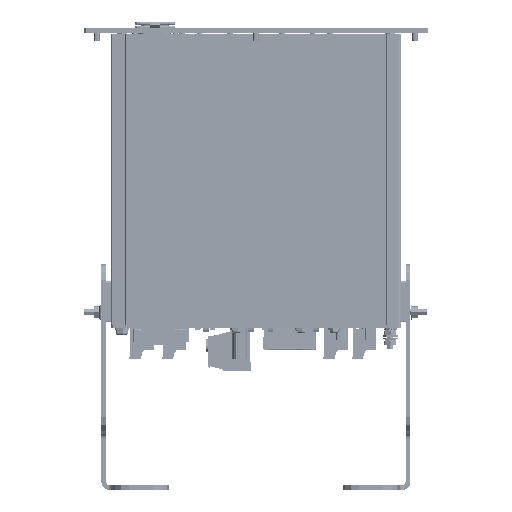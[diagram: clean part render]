
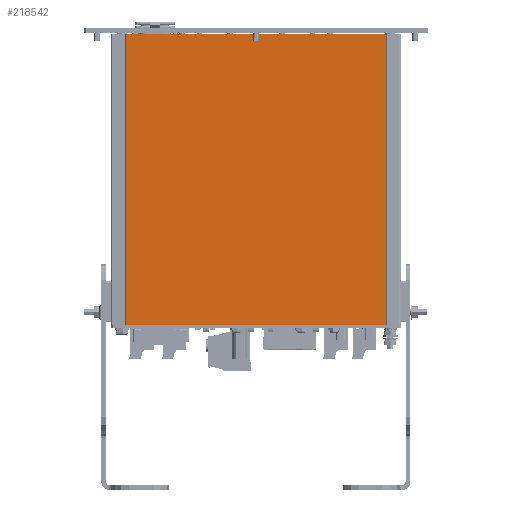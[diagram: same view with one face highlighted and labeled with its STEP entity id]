
A CAD part, front view. The second image highlights one B-rep face of the part: STEP entity #218542.
In plain terms, the highlighted planar face has unit normal (0, -1, 0).
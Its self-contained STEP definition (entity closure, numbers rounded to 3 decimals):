
#20174 = LINE ( 'NONE', #418196, #222006 ) ;
#105193 = VERTEX_POINT ( 'NONE', #242427 ) ;
#111782 = CARTESIAN_POINT ( 'NONE',  ( -176.081, -158.02, 282.25 ) ) ;
#127174 = EDGE_CURVE ( 'NONE', #693619, #688755, #20174, .T. ) ;
#129917 = DIRECTION ( 'NONE',  ( 0., 0., -1. ) ) ;
#147471 = VECTOR ( 'NONE', #157110, 1000. ) ;
#157110 = DIRECTION ( 'NONE',  ( 1., 0., 0. ) ) ;
#162247 = CARTESIAN_POINT ( 'NONE',  ( -176.081, -158.02, 102.25 ) ) ;
#183517 = VECTOR ( 'NONE', #129917, 1000. ) ;
#196539 = ORIENTED_EDGE ( 'NONE', *, *, #245354, .F. ) ;
#214673 = CARTESIAN_POINT ( 'NONE',  ( -176.081, -158.02, 282.25 ) ) ;
#218542 = ADVANCED_FACE ( 'NONE', ( #897248 ), #661315, .F. ) ;
#219451 = CARTESIAN_POINT ( 'NONE',  ( -176.081, -158.02, 102.25 ) ) ;
#222006 = VECTOR ( 'NONE', #339713, 1000. ) ;
#242427 = CARTESIAN_POINT ( 'NONE',  ( -15.269, -158.02, 102.25 ) ) ;
#245354 = EDGE_CURVE ( 'NONE', #688755, #105193, #433923, .T. ) ;
#292578 = DIRECTION ( 'NONE',  ( 0., 0., -1. ) ) ;
#337148 = DIRECTION ( 'NONE',  ( 0., 1., 0. ) ) ;
#339713 = DIRECTION ( 'NONE',  ( 1., 0., 0. ) ) ;
#355355 = EDGE_CURVE ( 'NONE', #693619, #986997, #631833, .T. ) ;
#373576 = ORIENTED_EDGE ( 'NONE', *, *, #127174, .F. ) ;
#418196 = CARTESIAN_POINT ( 'NONE',  ( -176.081, -158.02, 282.25 ) ) ;
#433923 = LINE ( 'NONE', #517719, #675917 ) ;
#517719 = CARTESIAN_POINT ( 'NONE',  ( -15.269, -158.02, 282.25 ) ) ;
#533091 = CARTESIAN_POINT ( 'NONE',  ( -15.269, -158.02, 282.25 ) ) ;
#572948 = ORIENTED_EDGE ( 'NONE', *, *, #579564, .T. ) ;
#579564 = EDGE_CURVE ( 'NONE', #986997, #105193, #628212, .T. ) ;
#628212 = LINE ( 'NONE', #162247, #147471 ) ;
#631833 = LINE ( 'NONE', #935975, #183517 ) ;
#661315 = PLANE ( 'NONE',  #779166 ) ;
#675917 = VECTOR ( 'NONE', #292578, 1000. ) ;
#688755 = VERTEX_POINT ( 'NONE', #533091 ) ;
#693619 = VERTEX_POINT ( 'NONE', #214673 ) ;
#715268 = EDGE_LOOP ( 'NONE', ( #572948, #196539, #373576, #982755 ) ) ;
#779166 = AXIS2_PLACEMENT_3D ( 'NONE', #111782, #337148, #892152 ) ;
#892152 = DIRECTION ( 'NONE',  ( 0., 0., -1. ) ) ;
#897248 = FACE_OUTER_BOUND ( 'NONE', #715268, .T. ) ;
#935975 = CARTESIAN_POINT ( 'NONE',  ( -176.081, -158.02, 282.25 ) ) ;
#982755 = ORIENTED_EDGE ( 'NONE', *, *, #355355, .T. ) ;
#986997 = VERTEX_POINT ( 'NONE', #219451 ) ;
